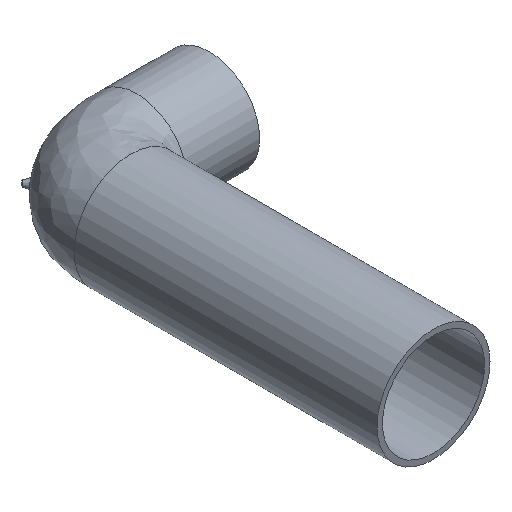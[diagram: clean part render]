
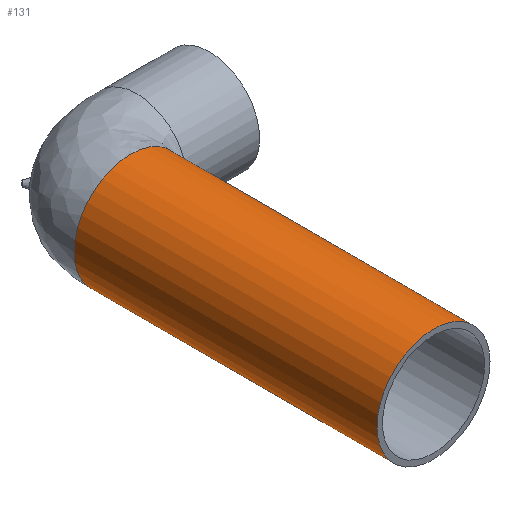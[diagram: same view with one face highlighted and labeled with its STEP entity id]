
A CAD part, isometric view. The second image highlights one B-rep face of the part: STEP entity #131.
In plain terms, the highlighted cylindrical face has radius 31.5 mm (diameter 63 mm), a full revolution.
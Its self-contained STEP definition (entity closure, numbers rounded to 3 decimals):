
#18=CYLINDRICAL_SURFACE($,#150,31.5);
#26=FACE_BOUND($,#60,.T.);
#38=CIRCLE($,#149,31.5);
#39=CIRCLE($,#151,31.5);
#47=FACE_OUTER_BOUND($,#59,.T.);
#59=EDGE_LOOP($,(#117));
#60=EDGE_LOOP($,(#118));
#79=VERTEX_POINT($,#1000);
#80=VERTEX_POINT($,#1009);
#93=EDGE_CURVE($,#79,#79,#38,.T.);
#94=EDGE_CURVE($,#80,#80,#39,.T.);
#117=ORIENTED_EDGE($,*,*,#94,.F.);
#118=ORIENTED_EDGE($,*,*,#93,.T.);
#131=ADVANCED_FACE($,(#47,#26),#18,.T.);
#149=AXIS2_PLACEMENT_3D($,#1007,#180,#181);
#150=AXIS2_PLACEMENT_3D($,#1008,#182,#183);
#151=AXIS2_PLACEMENT_3D($,#1010,#184,#185);
#180=DIRECTION('center_axis',(0.,-1.,0.));
#181=DIRECTION('ref_axis',(1.,0.,0.));
#182=DIRECTION('center_axis',(0.,1.,0.));
#183=DIRECTION('ref_axis',(1.,0.,0.));
#184=DIRECTION('center_axis',(0.,-1.,0.));
#185=DIRECTION('ref_axis',(1.,0.,0.));
#1000=CARTESIAN_POINT('',(-31.5,169.,0.));
#1007=CARTESIAN_POINT('Origin',(0.,169.,0.));
#1008=CARTESIAN_POINT('Origin',(0.,0.,0.));
#1009=CARTESIAN_POINT('',(-31.5,0.,0.));
#1010=CARTESIAN_POINT('Origin',(0.,0.,0.));
